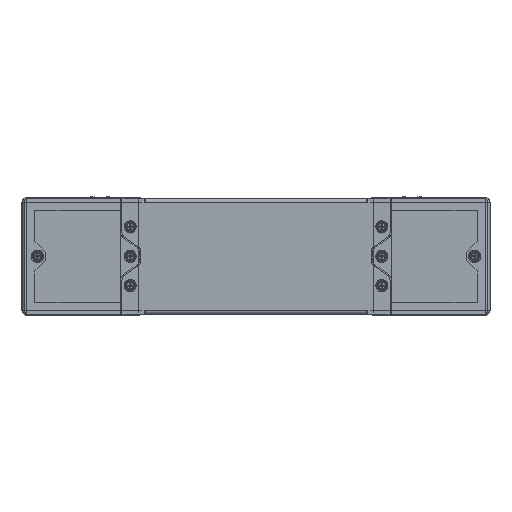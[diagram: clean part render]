
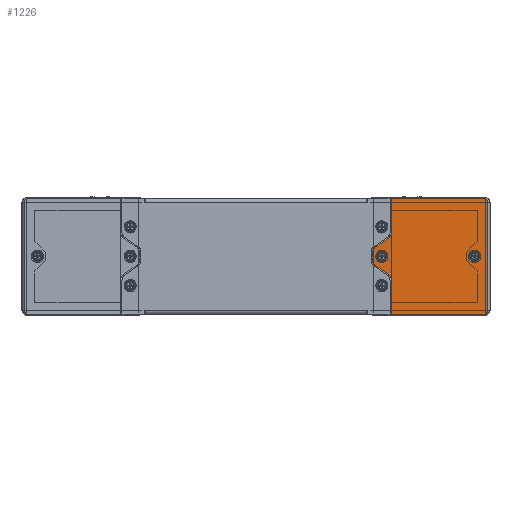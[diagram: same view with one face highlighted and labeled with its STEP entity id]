
A CAD part, left-side view. The second image highlights one B-rep face of the part: STEP entity #1226.
In plain terms, the highlighted planar face has unit normal (-1, 0, 0) as drawn and (1, 0, 0) by its records, which use the part's own axes.
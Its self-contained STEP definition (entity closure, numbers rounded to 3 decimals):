
#1226=ADVANCED_FACE('',(#3195,#3197,#3199),#3201,.T.);
#3195=FACE_BOUND('',#3196,.T.);
#3196=EDGE_LOOP('',(#5934,#5935,#5936,#5937,#5938,#5939,#5940,#5941,#5942,#5943,
#5944,#5945,#5946,#5947));
#3197=FACE_BOUND('',#3198,.T.);
#3198=EDGE_LOOP('',(#5948));
#3199=FACE_BOUND('',#3200,.T.);
#3200=EDGE_LOOP('',(#5949));
#3201=PLANE('',#3202);
#3202=AXIS2_PLACEMENT_3D('',#3203,#3204,#3205);
#3203=CARTESIAN_POINT('',(1.5,0.,0.));
#3204=DIRECTION('',(1.,0.,0.));
#3205=DIRECTION('',(0.,1.,0.));
#5934=ORIENTED_EDGE('',*,*,#7123,.T.);
#5935=ORIENTED_EDGE('',*,*,#7124,.T.);
#5936=ORIENTED_EDGE('',*,*,#7125,.T.);
#5937=ORIENTED_EDGE('',*,*,#7126,.T.);
#5938=ORIENTED_EDGE('',*,*,#7127,.T.);
#5939=ORIENTED_EDGE('',*,*,#7128,.T.);
#5940=ORIENTED_EDGE('',*,*,#7129,.T.);
#5941=ORIENTED_EDGE('',*,*,#7130,.T.);
#5942=ORIENTED_EDGE('',*,*,#7131,.T.);
#5943=ORIENTED_EDGE('',*,*,#7132,.T.);
#5944=ORIENTED_EDGE('',*,*,#7133,.T.);
#5945=ORIENTED_EDGE('',*,*,#7134,.T.);
#5946=ORIENTED_EDGE('',*,*,#7135,.T.);
#5947=ORIENTED_EDGE('',*,*,#7136,.T.);
#5948=ORIENTED_EDGE('',*,*,#7137,.T.);
#5949=ORIENTED_EDGE('',*,*,#7138,.T.);
#7123=EDGE_CURVE('',#8267,#8268,#8269,.T.);
#7124=EDGE_CURVE('',#8268,#8270,#8271,.T.);
#7125=EDGE_CURVE('',#8270,#8272,#8273,.T.);
#7126=EDGE_CURVE('',#8272,#8274,#8275,.T.);
#7127=EDGE_CURVE('',#8274,#8276,#8277,.T.);
#7128=EDGE_CURVE('',#8276,#8278,#8279,.T.);
#7129=EDGE_CURVE('',#8278,#8280,#8281,.T.);
#7130=EDGE_CURVE('',#8280,#8282,#8283,.T.);
#7131=EDGE_CURVE('',#8282,#8284,#8285,.T.);
#7132=EDGE_CURVE('',#8284,#8286,#8287,.T.);
#7133=EDGE_CURVE('',#8286,#8288,#8289,.T.);
#7134=EDGE_CURVE('',#8288,#8290,#8291,.T.);
#7135=EDGE_CURVE('',#8290,#8292,#8293,.T.);
#7136=EDGE_CURVE('',#8292,#8267,#8294,.T.);
#7137=EDGE_CURVE('',#8295,#8295,#8296,.F.);
#7138=EDGE_CURVE('',#8297,#8297,#8298,.F.);
#8267=VERTEX_POINT('',#10844);
#8268=VERTEX_POINT('',#10845);
#8269=CIRCLE('',#10846,5.);
#8270=VERTEX_POINT('',#10850);
#8271=LINE('',#10851,#10852);
#8272=VERTEX_POINT('',#10854);
#8273=CIRCLE('',#10855,4.);
#8274=VERTEX_POINT('',#10859);
#8275=LINE('',#10860,#10861);
#8276=VERTEX_POINT('',#10863);
#8277=LINE('',#10864,#10865);
#8278=VERTEX_POINT('',#10867);
#8279=CIRCLE('',#10868,4.);
#8280=VERTEX_POINT('',#10872);
#8281=LINE('',#10873,#10874);
#8282=VERTEX_POINT('',#10876);
#8283=CIRCLE('',#10877,4.);
#8284=VERTEX_POINT('',#10881);
#8285=LINE('',#10882,#10883);
#8286=VERTEX_POINT('',#10885);
#8287=LINE('',#10886,#10887);
#8288=VERTEX_POINT('',#10889);
#8289=CIRCLE('',#10890,4.);
#8290=VERTEX_POINT('',#10894);
#8291=LINE('',#10895,#10896);
#8292=VERTEX_POINT('',#10898);
#8293=CIRCLE('',#10899,5.);
#8294=LINE('',#10903,#10904);
#8295=VERTEX_POINT('',#10906);
#8296=CIRCLE('',#10907,5.25);
#8297=VERTEX_POINT('',#10911);
#8298=CIRCLE('',#10912,5.25);
#10844=CARTESIAN_POINT('',(1.5,-49.,-3.397));
#10845=CARTESIAN_POINT('',(1.5,-46.868,-7.493));
#10846=AXIS2_PLACEMENT_3D('',#10847,#10848,#10849);
#10847=CARTESIAN_POINT('',(1.5,-44.,-3.397));
#10848=DIRECTION('',(1.,0.,0.));
#10849=DIRECTION('',(0.,-1.,0.));
#10850=CARTESIAN_POINT('',(1.5,-34.706,-16.009));
#10851=CARTESIAN_POINT('',(1.5,-46.868,-7.493));
#10852=VECTOR('',#10853,1.);
#10853=DIRECTION('',(0.,0.819,-0.574));
#10854=CARTESIAN_POINT('',(1.5,-33.,-19.286));
#10855=AXIS2_PLACEMENT_3D('',#10856,#10857,#10858);
#10856=CARTESIAN_POINT('',(1.5,-37.,-19.286));
#10857=DIRECTION('',(-1.,0.,0.));
#10858=DIRECTION('',(0.,0.574,0.819));
#10859=CARTESIAN_POINT('',(1.5,-33.,-49.5));
#10860=CARTESIAN_POINT('',(1.5,-33.,-19.286));
#10861=VECTOR('',#10862,1.);
#10862=DIRECTION('',(0.,0.,-1.));
#10863=CARTESIAN_POINT('',(1.5,45.,-49.5));
#10864=CARTESIAN_POINT('',(1.5,-33.,-49.5));
#10865=VECTOR('',#10866,1.);
#10866=DIRECTION('',(0.,1.,0.));
#10867=CARTESIAN_POINT('',(1.5,49.,-45.5));
#10868=AXIS2_PLACEMENT_3D('',#10869,#10870,#10871);
#10869=CARTESIAN_POINT('',(1.5,45.,-45.5));
#10870=DIRECTION('',(1.,0.,0.));
#10871=DIRECTION('',(0.,0.,-1.));
#10872=CARTESIAN_POINT('',(1.5,49.,45.5));
#10873=CARTESIAN_POINT('',(1.5,49.,-45.5));
#10874=VECTOR('',#10875,1.);
#10875=DIRECTION('',(0.,0.,1.));
#10876=CARTESIAN_POINT('',(1.5,45.,49.5));
#10877=AXIS2_PLACEMENT_3D('',#10878,#10879,#10880);
#10878=CARTESIAN_POINT('',(1.5,45.,45.5));
#10879=DIRECTION('',(1.,0.,0.));
#10880=DIRECTION('',(0.,1.,0.));
#10881=CARTESIAN_POINT('',(1.5,-33.,49.5));
#10882=CARTESIAN_POINT('',(1.5,45.,49.5));
#10883=VECTOR('',#10884,1.);
#10884=DIRECTION('',(0.,-1.,0.));
#10885=CARTESIAN_POINT('',(1.5,-33.,19.286));
#10886=CARTESIAN_POINT('',(1.5,-33.,49.5));
#10887=VECTOR('',#10888,1.);
#10888=DIRECTION('',(0.,0.,-1.));
#10889=CARTESIAN_POINT('',(1.5,-34.706,16.009));
#10890=AXIS2_PLACEMENT_3D('',#10891,#10892,#10893);
#10891=CARTESIAN_POINT('',(1.5,-37.,19.286));
#10892=DIRECTION('',(-1.,0.,0.));
#10893=DIRECTION('',(0.,1.,0.));
#10894=CARTESIAN_POINT('',(1.5,-46.868,7.493));
#10895=CARTESIAN_POINT('',(1.5,-34.706,16.009));
#10896=VECTOR('',#10897,1.);
#10897=DIRECTION('',(0.,-0.819,-0.574));
#10898=CARTESIAN_POINT('',(1.5,-49.,3.397));
#10899=AXIS2_PLACEMENT_3D('',#10900,#10901,#10902);
#10900=CARTESIAN_POINT('',(1.5,-44.,3.397));
#10901=DIRECTION('',(1.,0.,0.));
#10902=DIRECTION('',(0.,-0.574,0.819));
#10903=CARTESIAN_POINT('',(1.5,-49.,3.397));
#10904=VECTOR('',#10905,1.);
#10905=DIRECTION('',(0.,0.,-1.));
#10906=CARTESIAN_POINT('',(1.5,32.75,0.));
#10907=AXIS2_PLACEMENT_3D('',#10908,#10909,#10910);
#10908=CARTESIAN_POINT('',(1.5,38.,0.));
#10909=DIRECTION('',(1.,0.,0.));
#10910=DIRECTION('',(0.,-1.,0.));
#10911=CARTESIAN_POINT('',(1.5,-46.25,0.));
#10912=AXIS2_PLACEMENT_3D('',#10913,#10914,#10915);
#10913=CARTESIAN_POINT('',(1.5,-41.,0.));
#10914=DIRECTION('',(1.,0.,0.));
#10915=DIRECTION('',(0.,-1.,0.));
